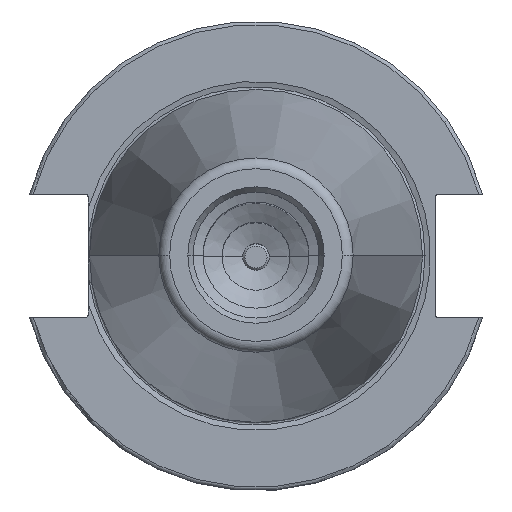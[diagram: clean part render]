
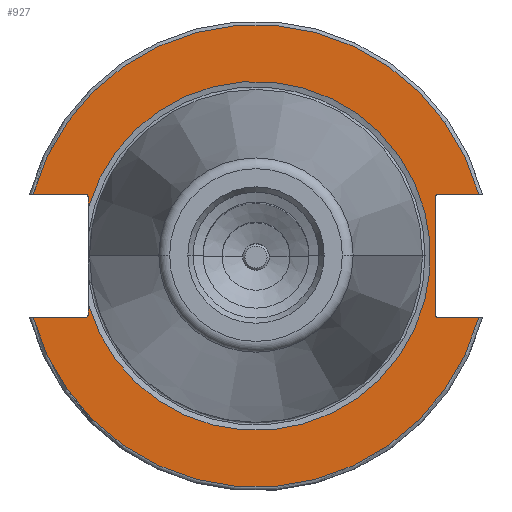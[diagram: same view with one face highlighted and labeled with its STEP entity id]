
A CAD part, top view. The second image highlights one B-rep face of the part: STEP entity #927.
In plain terms, the highlighted planar face has unit normal (0, 0, 1).
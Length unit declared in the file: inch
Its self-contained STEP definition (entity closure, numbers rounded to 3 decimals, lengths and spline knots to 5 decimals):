
#58 = CIRCLE ( 'NONE', #7556, 0.03 ) ;
#248 = VECTOR ( 'NONE', #5035, 39.37008 ) ;
#255 = CARTESIAN_POINT ( 'NONE',  ( -1.4125, 0.48, -0.125 ) ) ;
#256 = ORIENTED_EDGE ( 'NONE', *, *, #5475, .T. ) ;
#370 = AXIS2_PLACEMENT_3D ( 'NONE', #255, #8542, #4928 ) ;
#442 = CIRCLE ( 'NONE', #919, 1.9075 ) ;
#511 = CARTESIAN_POINT ( 'NONE',  ( -1.4125, 0.51, -0.125 ) ) ;
#619 = EDGE_CURVE ( 'NONE', #4595, #7164, #3178, .T. ) ;
#627 = LINE ( 'NONE', #7613, #9464 ) ;
#664 = ORIENTED_EDGE ( 'NONE', *, *, #4247, .T. ) ;
#682 = CARTESIAN_POINT ( 'NONE',  ( 1.5075, -0.48, -0.125 ) ) ;
#810 = VERTEX_POINT ( 'NONE', #4912 ) ;
#811 = LINE ( 'NONE', #951, #5968 ) ;
#883 = VERTEX_POINT ( 'NONE', #9319 ) ;
#919 = AXIS2_PLACEMENT_3D ( 'NONE', #5290, #5337, #3048 ) ;
#927 = ADVANCED_FACE ( 'NONE', ( #8669 ), #7171, .T. ) ;
#941 = AXIS2_PLACEMENT_3D ( 'NONE', #6678, #8922, #8335 ) ;
#951 = CARTESIAN_POINT ( 'NONE',  ( -1.3825, -1.9075, -0.125 ) ) ;
#1334 = DIRECTION ( 'NONE',  ( 1., 0., 0. ) ) ;
#1442 = ORIENTED_EDGE ( 'NONE', *, *, #619, .T. ) ;
#1489 = DIRECTION ( 'NONE',  ( 1., 0., 0. ) ) ;
#1523 = ORIENTED_EDGE ( 'NONE', *, *, #9521, .T. ) ;
#1582 = VECTOR ( 'NONE', #1489, 39.37008 ) ;
#1706 = DIRECTION ( 'NONE',  ( -1., 0., 0. ) ) ;
#1909 = VERTEX_POINT ( 'NONE', #3358 ) ;
#1930 = DIRECTION ( 'NONE',  ( 0., 0., 1. ) ) ;
#1946 = CARTESIAN_POINT ( 'NONE',  ( -1.3825, -0.48, -0.125 ) ) ;
#1955 = VECTOR ( 'NONE', #8458, 39.37008 ) ;
#2044 = CARTESIAN_POINT ( 'NONE',  ( -1.83806, -0.51, -0.125 ) ) ;
#2221 = CIRCLE ( 'NONE', #941, 1.43979 ) ;
#2317 = EDGE_CURVE ( 'NONE', #4046, #8341, #9648, .T. ) ;
#2366 = ORIENTED_EDGE ( 'NONE', *, *, #5109, .T. ) ;
#2603 = CARTESIAN_POINT ( 'NONE',  ( 0., 0., -0.125 ) ) ;
#2631 = DIRECTION ( 'NONE',  ( 0., -1., 0. ) ) ;
#2686 = LINE ( 'NONE', #4022, #9369 ) ;
#2739 = CARTESIAN_POINT ( 'NONE',  ( 0., -0.51, -0.125 ) ) ;
#2923 = ORIENTED_EDGE ( 'NONE', *, *, #2317, .T. ) ;
#2935 = CARTESIAN_POINT ( 'NONE',  ( 1.83806, 0.51, -0.125 ) ) ;
#3048 = DIRECTION ( 'NONE',  ( 1., 0., 0. ) ) ;
#3093 = ORIENTED_EDGE ( 'NONE', *, *, #4300, .T. ) ;
#3102 = DIRECTION ( 'NONE',  ( 0., 0., -1. ) ) ;
#3178 = CIRCLE ( 'NONE', #9721, 0.03 ) ;
#3269 = CARTESIAN_POINT ( 'NONE',  ( 0., -1.9075, -0.125 ) ) ;
#3358 = CARTESIAN_POINT ( 'NONE',  ( -1.3825, 0.48, -0.125 ) ) ;
#3453 = EDGE_CURVE ( 'NONE', #1909, #4086, #2686, .T. ) ;
#3498 = VERTEX_POINT ( 'NONE', #9665 ) ;
#3548 = VERTEX_POINT ( 'NONE', #2044 ) ;
#3621 = ORIENTED_EDGE ( 'NONE', *, *, #8366, .F. ) ;
#3651 = VERTEX_POINT ( 'NONE', #2935 ) ;
#3689 = EDGE_CURVE ( 'NONE', #883, #7599, #5373, .T. ) ;
#3709 = ORIENTED_EDGE ( 'NONE', *, *, #3689, .T. ) ;
#3850 = CARTESIAN_POINT ( 'NONE',  ( 1.5075, -0.51, -0.125 ) ) ;
#3939 = LINE ( 'NONE', #8307, #1955 ) ;
#4022 = CARTESIAN_POINT ( 'NONE',  ( -1.3825, -1.9075, -0.125 ) ) ;
#4046 = VERTEX_POINT ( 'NONE', #1946 ) ;
#4086 = VERTEX_POINT ( 'NONE', #4650 ) ;
#4247 = EDGE_CURVE ( 'NONE', #8341, #3548, #4480, .T. ) ;
#4300 = EDGE_CURVE ( 'NONE', #3498, #4046, #811, .T. ) ;
#4480 = LINE ( 'NONE', #7545, #248 ) ;
#4494 = EDGE_CURVE ( 'NONE', #6405, #8165, #8178, .T. ) ;
#4595 = VERTEX_POINT ( 'NONE', #5377 ) ;
#4650 = CARTESIAN_POINT ( 'NONE',  ( -1.3825, 0.40209, -0.125 ) ) ;
#4912 = CARTESIAN_POINT ( 'NONE',  ( 1.4775, -0.48, -0.125 ) ) ;
#4928 = DIRECTION ( 'NONE',  ( -1., 0., 0. ) ) ;
#4960 = DIRECTION ( 'NONE',  ( 1., 0., 0. ) ) ;
#4974 = AXIS2_PLACEMENT_3D ( 'NONE', #2603, #7954, #5602 ) ;
#4978 = EDGE_CURVE ( 'NONE', #4595, #810, #3939, .T. ) ;
#5035 = DIRECTION ( 'NONE',  ( -1., 0., 0. ) ) ;
#5109 = EDGE_CURVE ( 'NONE', #7599, #1909, #5314, .T. ) ;
#5159 = ORIENTED_EDGE ( 'NONE', *, *, #3453, .T. ) ;
#5264 = DIRECTION ( 'NONE',  ( -1., 0., 0. ) ) ;
#5290 = CARTESIAN_POINT ( 'NONE',  ( 0., 0., -0.125 ) ) ;
#5314 = CIRCLE ( 'NONE', #370, 0.03 ) ;
#5337 = DIRECTION ( 'NONE',  ( 0., 0., -1. ) ) ;
#5373 = LINE ( 'NONE', #5962, #1582 ) ;
#5377 = CARTESIAN_POINT ( 'NONE',  ( 1.4775, 0.48, -0.125 ) ) ;
#5442 = DIRECTION ( 'NONE',  ( 0., -1., 0. ) ) ;
#5457 = CARTESIAN_POINT ( 'NONE',  ( 1.83806, -0.51, -0.125 ) ) ;
#5475 = EDGE_CURVE ( 'NONE', #6405, #810, #58, .T. ) ;
#5602 = DIRECTION ( 'NONE',  ( 1., 0., 0. ) ) ;
#5698 = CARTESIAN_POINT ( 'NONE',  ( -1.4125, -0.51, -0.125 ) ) ;
#5793 = ORIENTED_EDGE ( 'NONE', *, *, #6684, .F. ) ;
#5962 = CARTESIAN_POINT ( 'NONE',  ( 0., 0.51, -0.125 ) ) ;
#5968 = VECTOR ( 'NONE', #5442, 39.37008 ) ;
#6228 = ORIENTED_EDGE ( 'NONE', *, *, #4494, .F. ) ;
#6405 = VERTEX_POINT ( 'NONE', #3850 ) ;
#6548 = CARTESIAN_POINT ( 'NONE',  ( 1.5075, 0.51, -0.125 ) ) ;
#6678 = CARTESIAN_POINT ( 'NONE',  ( 0., 0., -0.125 ) ) ;
#6684 = EDGE_CURVE ( 'NONE', #8165, #3548, #442, .T. ) ;
#7023 = AXIS2_PLACEMENT_3D ( 'NONE', #3269, #1930, #4960 ) ;
#7164 = VERTEX_POINT ( 'NONE', #6548 ) ;
#7171 = PLANE ( 'NONE',  #7023 ) ;
#7310 = EDGE_CURVE ( 'NONE', #3651, #7164, #627, .T. ) ;
#7545 = CARTESIAN_POINT ( 'NONE',  ( 0., -0.51, -0.125 ) ) ;
#7556 = AXIS2_PLACEMENT_3D ( 'NONE', #682, #8132, #5264 ) ;
#7599 = VERTEX_POINT ( 'NONE', #511 ) ;
#7613 = CARTESIAN_POINT ( 'NONE',  ( 0., 0.51, -0.125 ) ) ;
#7711 = ORIENTED_EDGE ( 'NONE', *, *, #7310, .F. ) ;
#7808 = EDGE_LOOP ( 'NONE', ( #7711, #3621, #3709, #2366, #5159, #1523, #3093, #2923, #664, #5793, #6228, #256, #8288, #1442 ) ) ;
#7954 = DIRECTION ( 'NONE',  ( 0., 0., -1. ) ) ;
#8132 = DIRECTION ( 'NONE',  ( 0., 0., -1. ) ) ;
#8165 = VERTEX_POINT ( 'NONE', #5457 ) ;
#8178 = LINE ( 'NONE', #2739, #8547 ) ;
#8288 = ORIENTED_EDGE ( 'NONE', *, *, #4978, .F. ) ;
#8307 = CARTESIAN_POINT ( 'NONE',  ( 1.4775, -1.9075, -0.125 ) ) ;
#8335 = DIRECTION ( 'NONE',  ( 1., 0., 0. ) ) ;
#8341 = VERTEX_POINT ( 'NONE', #5698 ) ;
#8366 = EDGE_CURVE ( 'NONE', #883, #3651, #9295, .T. ) ;
#8458 = DIRECTION ( 'NONE',  ( 0., -1., 0. ) ) ;
#8535 = DIRECTION ( 'NONE',  ( 0., 0., -1. ) ) ;
#8542 = DIRECTION ( 'NONE',  ( 0., 0., -1. ) ) ;
#8547 = VECTOR ( 'NONE', #1334, 39.37008 ) ;
#8669 = FACE_OUTER_BOUND ( 'NONE', #7808, .T. ) ;
#8922 = DIRECTION ( 'NONE',  ( 0., 0., -1. ) ) ;
#8949 = DIRECTION ( 'NONE',  ( -1., 0., 0. ) ) ;
#9019 = AXIS2_PLACEMENT_3D ( 'NONE', #9098, #8535, #1706 ) ;
#9098 = CARTESIAN_POINT ( 'NONE',  ( -1.4125, -0.48, -0.125 ) ) ;
#9201 = DIRECTION ( 'NONE',  ( -1., 0., 0. ) ) ;
#9295 = CIRCLE ( 'NONE', #4974, 1.9075 ) ;
#9298 = CARTESIAN_POINT ( 'NONE',  ( 1.5075, 0.48, -0.125 ) ) ;
#9319 = CARTESIAN_POINT ( 'NONE',  ( -1.83806, 0.51, -0.125 ) ) ;
#9369 = VECTOR ( 'NONE', #2631, 39.37008 ) ;
#9464 = VECTOR ( 'NONE', #8949, 39.37008 ) ;
#9521 = EDGE_CURVE ( 'NONE', #4086, #3498, #2221, .T. ) ;
#9648 = CIRCLE ( 'NONE', #9019, 0.03 ) ;
#9665 = CARTESIAN_POINT ( 'NONE',  ( -1.3825, -0.40209, -0.125 ) ) ;
#9721 = AXIS2_PLACEMENT_3D ( 'NONE', #9298, #3102, #9201 ) ;
